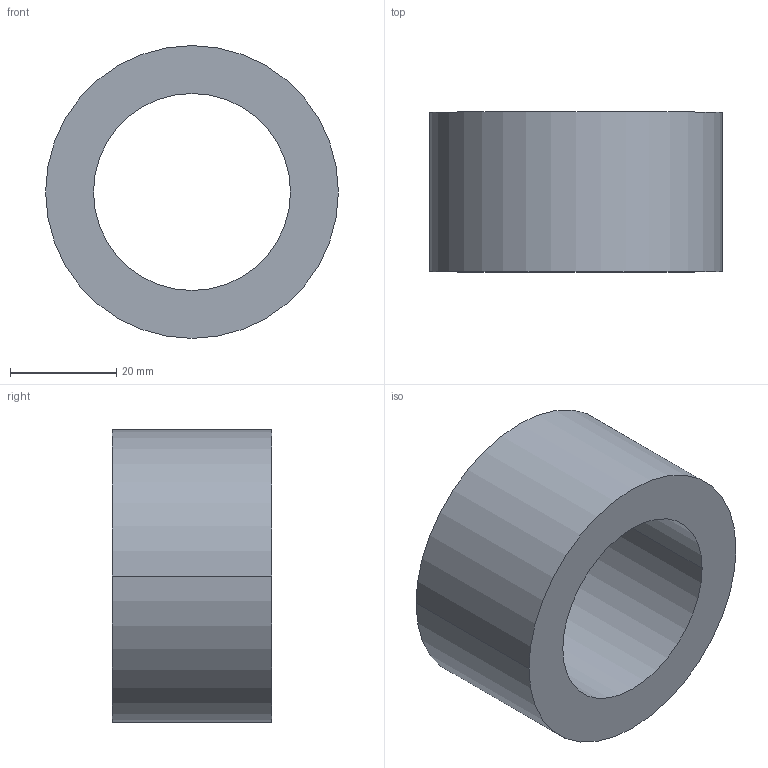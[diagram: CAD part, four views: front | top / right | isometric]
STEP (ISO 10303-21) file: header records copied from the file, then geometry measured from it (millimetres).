
FILE_DESCRIPTION (( 'STEP AP203' ), '1' );
FILE_NAME ('30800.WPP55L37.0.step', '2019-01-23T22:54:17', ( '' ), ( '' ), 'SwSTEP 2.0', 'SolidWorks 2017', '' );
FILE_SCHEMA (( 'CONFIG_CONTROL_DESIGN' ));
Length unit declared in the file: millimetre
Products named in the file (1): 30800.WPP55L37.0
Bounding box: 55 x 30 x 55 mm (x, y, z)
Volume: 38700.1 mm3; surface area: 11102.9 mm2
Topology: 1 solids, 1 shells, 8 faces, 16 edges, 10 vertices
Faces by surface type: cylinder 4, torus 2, plane 2
Entity records: 297 total; most frequent: DIRECTION 46, CARTESIAN_POINT 35, ORIENTED_EDGE 32, AXIS2_PLACEMENT_3D 21, EDGE_CURVE 16, CIRCLE 12, VERTEX_POINT 10, EDGE_LOOP 10
